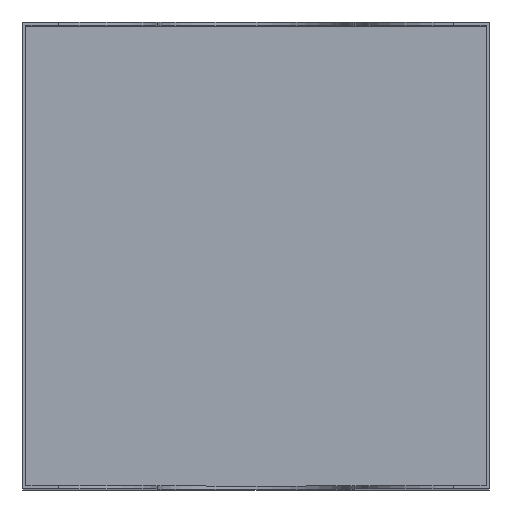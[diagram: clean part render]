
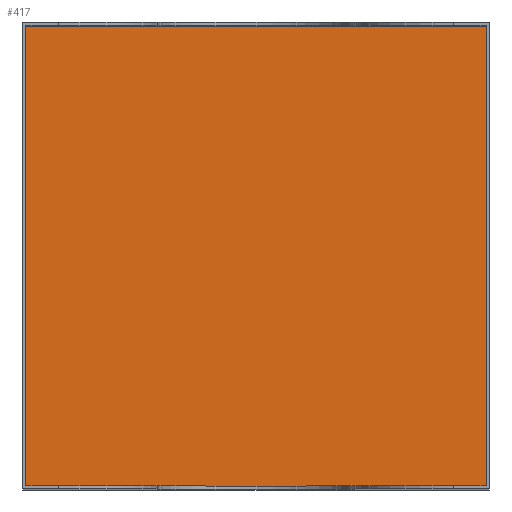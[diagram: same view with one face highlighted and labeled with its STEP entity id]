
A CAD part, top view. The second image highlights one B-rep face of the part: STEP entity #417.
In plain terms, the highlighted planar face has unit normal (0, 0, 1).
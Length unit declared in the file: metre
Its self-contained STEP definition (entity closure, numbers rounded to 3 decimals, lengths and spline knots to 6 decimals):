
#106=ORIENTED_EDGE('',*,*,#183,.F.);
#107=ORIENTED_EDGE('',*,*,#198,.F.);
#108=ORIENTED_EDGE('',*,*,#192,.T.);
#109=ORIENTED_EDGE('',*,*,#188,.T.);
#183=EDGE_CURVE('',#238,#239,#276,.T.);
#188=EDGE_CURVE('',#242,#239,#279,.T.);
#192=EDGE_CURVE('',#245,#242,#282,.T.);
#198=EDGE_CURVE('',#245,#238,#286,.T.);
#238=VERTEX_POINT('',#662);
#239=VERTEX_POINT('',#664);
#242=VERTEX_POINT('',#673);
#245=VERTEX_POINT('',#681);
#276=LINE('',#663,#324);
#279=LINE('',#672,#327);
#282=LINE('',#680,#330);
#286=LINE('',#692,#334);
#324=VECTOR('',#531,1.);
#327=VECTOR('',#540,1.);
#330=VECTOR('',#547,1.);
#334=VECTOR('',#557,1.);
#357=EDGE_LOOP('',(#106,#107,#108,#109));
#379=FACE_BOUND('',#357,.T.);
#401=PLANE('',#464);
#417=ADVANCED_FACE('',(#379),#401,.T.);
#464=AXIS2_PLACEMENT_3D('',#697,#563,#564);
#531=DIRECTION('',(1.,0.,0.));
#540=DIRECTION('',(0.,1.,0.));
#547=DIRECTION('',(1.,0.,0.));
#557=DIRECTION('',(0.,1.,0.));
#563=DIRECTION('',(0.,0.,1.));
#564=DIRECTION('',(1.,0.,0.));
#662=CARTESIAN_POINT('',(-0.035,0.035,0.0005));
#663=CARTESIAN_POINT('',(0.058455,0.035,0.0005));
#664=CARTESIAN_POINT('',(0.035,0.035,0.0005));
#672=CARTESIAN_POINT('',(0.035,0.,0.0005));
#673=CARTESIAN_POINT('',(0.035,-0.035,0.0005));
#680=CARTESIAN_POINT('',(0.058455,-0.035,0.0005));
#681=CARTESIAN_POINT('',(-0.035,-0.035,0.0005));
#692=CARTESIAN_POINT('',(-0.035,0.,0.0005));
#697=CARTESIAN_POINT('',(0.058455,0.,0.0005));
